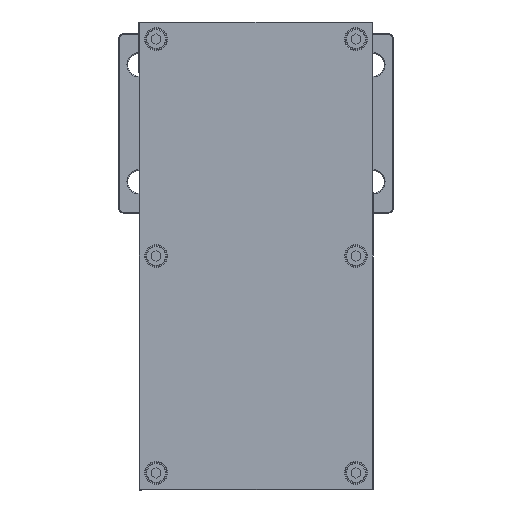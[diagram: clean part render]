
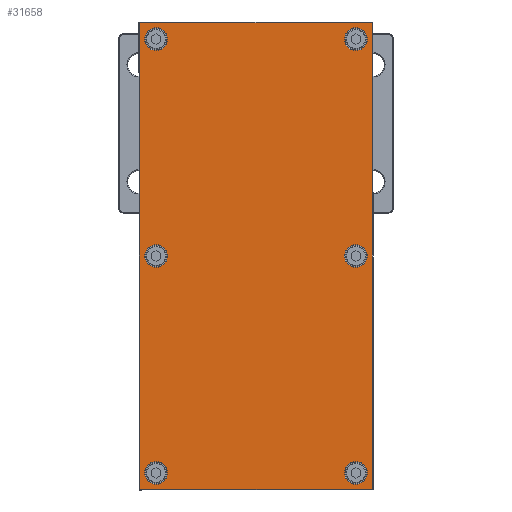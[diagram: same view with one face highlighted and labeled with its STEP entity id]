
A CAD part, front view. The second image highlights one B-rep face of the part: STEP entity #31658.
In plain terms, the highlighted planar face has unit normal (0, -1, 0).
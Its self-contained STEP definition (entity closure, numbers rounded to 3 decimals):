
#30217=CARTESIAN_POINT('',(149.,-9.,-74.));
#30218=DIRECTION('',(0.,-1.,0.));
#30219=DIRECTION('',(0.,0.,-1.));
#30220=AXIS2_PLACEMENT_3D('',#30217,#30218,#30219);
#30222=DIRECTION('',(1.,0.,0.));
#30223=VECTOR('',#30222,298.);
#30224=CARTESIAN_POINT('',(-149.,-9.,
-74.5));
#30225=LINE('',#30224,#30223);
#30226=CARTESIAN_POINT('',(-149.,-9.,-74.));
#30227=DIRECTION('',(0.,-1.,0.));
#30228=DIRECTION('',(-1.,0.,0.));
#30229=AXIS2_PLACEMENT_3D('',#30226,#30227,#30228);
#30231=DIRECTION('',(0.,0.,-1.));
#30232=VECTOR('',#30231,148.);
#30233=CARTESIAN_POINT('',(-149.5,-9.,74.));
#30234=LINE('',#30233,#30232);
#30235=CARTESIAN_POINT('',(-149.,-9.,74.));
#30236=DIRECTION('',(0.,-1.,0.));
#30237=DIRECTION('',(0.,0.,1.));
#30238=AXIS2_PLACEMENT_3D('',#30235,#30236,#30237);
#30240=DIRECTION('',(-1.,0.,0.));
#30241=VECTOR('',#30240,298.);
#30242=CARTESIAN_POINT('',(149.,-9.,
74.5));
#30243=LINE('',#30242,#30241);
#30244=CARTESIAN_POINT('',(149.,-9.,74.));
#30245=DIRECTION('',(0.,-1.,0.));
#30246=DIRECTION('',(1.,0.,0.));
#30247=AXIS2_PLACEMENT_3D('',#30244,#30245,#30246);
#30249=DIRECTION('',(0.,0.,1.));
#30250=VECTOR('',#30249,148.);
#30251=CARTESIAN_POINT('',(149.5,-9.,-74.));
#30252=LINE('',#30251,#30250);
#30253=CARTESIAN_POINT('',(-139.,-9.,-64.));
#30254=DIRECTION('',(0.,1.,0.));
#30255=DIRECTION('',(1.,0.,0.));
#30256=AXIS2_PLACEMENT_3D('',#30253,#30254,#30255);
#30258=CARTESIAN_POINT('',(-139.,-9.,-64.));
#30259=DIRECTION('',(0.,1.,0.));
#30260=DIRECTION('',(-1.,0.,0.));
#30261=AXIS2_PLACEMENT_3D('',#30258,#30259,#30260);
#30263=CARTESIAN_POINT('',(0.,-9.,-64.));
#30264=DIRECTION('',(0.,1.,0.));
#30265=DIRECTION('',(1.,0.,0.));
#30266=AXIS2_PLACEMENT_3D('',#30263,#30264,#30265);
#30268=CARTESIAN_POINT('',(0.,-9.,-64.));
#30269=DIRECTION('',(0.,1.,0.));
#30270=DIRECTION('',(-1.,0.,0.));
#30271=AXIS2_PLACEMENT_3D('',#30268,#30269,#30270);
#30273=CARTESIAN_POINT('',(139.,-9.,-64.));
#30274=DIRECTION('',(0.,1.,0.));
#30275=DIRECTION('',(1.,0.,0.));
#30276=AXIS2_PLACEMENT_3D('',#30273,#30274,#30275);
#30278=CARTESIAN_POINT('',(139.,-9.,-64.));
#30279=DIRECTION('',(0.,1.,0.));
#30280=DIRECTION('',(-1.,0.,0.));
#30281=AXIS2_PLACEMENT_3D('',#30278,#30279,#30280);
#30283=CARTESIAN_POINT('',(139.,-9.,64.));
#30284=DIRECTION('',(0.,1.,0.));
#30285=DIRECTION('',(1.,0.,0.));
#30286=AXIS2_PLACEMENT_3D('',#30283,#30284,#30285);
#30288=CARTESIAN_POINT('',(139.,-9.,64.));
#30289=DIRECTION('',(0.,1.,0.));
#30290=DIRECTION('',(-1.,0.,0.));
#30291=AXIS2_PLACEMENT_3D('',#30288,#30289,#30290);
#30293=CARTESIAN_POINT('',(0.,-9.,64.));
#30294=DIRECTION('',(0.,1.,0.));
#30295=DIRECTION('',(1.,0.,0.));
#30296=AXIS2_PLACEMENT_3D('',#30293,#30294,#30295);
#30298=CARTESIAN_POINT('',(0.,-9.,64.));
#30299=DIRECTION('',(0.,1.,0.));
#30300=DIRECTION('',(-1.,0.,0.));
#30301=AXIS2_PLACEMENT_3D('',#30298,#30299,#30300);
#30303=CARTESIAN_POINT('',(-139.,-9.,64.));
#30304=DIRECTION('',(0.,1.,0.));
#30305=DIRECTION('',(1.,0.,0.));
#30306=AXIS2_PLACEMENT_3D('',#30303,#30304,#30305);
#30308=CARTESIAN_POINT('',(-139.,-9.,64.));
#30309=DIRECTION('',(0.,1.,0.));
#30310=DIRECTION('',(-1.,0.,0.));
#30311=AXIS2_PLACEMENT_3D('',#30308,#30309,#30310);
#31387=CARTESIAN_POINT('',(149.,-9.,-74.5));
#31388=CARTESIAN_POINT('',(149.5,-9.,-74.));
#31389=VERTEX_POINT('',#31387);
#31390=VERTEX_POINT('',#31388);
#31395=CARTESIAN_POINT('',(149.5,-9.,
74.));
#31396=VERTEX_POINT('',#31395);
#31399=CARTESIAN_POINT('',(149.,-9.,74.5));
#31400=VERTEX_POINT('',#31399);
#31403=CARTESIAN_POINT('',(-149.,-9.,
74.5));
#31404=VERTEX_POINT('',#31403);
#31407=CARTESIAN_POINT('',(-149.5,-9.,74.));
#31408=VERTEX_POINT('',#31407);
#31411=CARTESIAN_POINT('',(-149.5,-9.,
-74.));
#31412=VERTEX_POINT('',#31411);
#31415=CARTESIAN_POINT('',(-149.,-9.,-74.5));
#31416=VERTEX_POINT('',#31415);
#31443=CARTESIAN_POINT('',(-131.7,-9.,-64.));
#31444=CARTESIAN_POINT('',(-146.3,-9.,-64.));
#31445=VERTEX_POINT('',#31443);
#31446=VERTEX_POINT('',#31444);
#31459=CARTESIAN_POINT('',(7.3,-9.,-64.));
#31460=CARTESIAN_POINT('',(-7.3,-9.,-64.));
#31461=VERTEX_POINT('',#31459);
#31462=VERTEX_POINT('',#31460);
#31483=CARTESIAN_POINT('',(146.3,-9.,-64.));
#31484=CARTESIAN_POINT('',(131.7,-9.,-64.));
#31485=VERTEX_POINT('',#31483);
#31486=VERTEX_POINT('',#31484);
#31499=CARTESIAN_POINT('',(146.3,-9.,64.));
#31500=CARTESIAN_POINT('',(131.7,-9.,64.));
#31501=VERTEX_POINT('',#31499);
#31502=VERTEX_POINT('',#31500);
#31507=CARTESIAN_POINT('',(7.3,-9.,64.));
#31508=CARTESIAN_POINT('',(-7.3,-9.,64.));
#31509=VERTEX_POINT('',#31507);
#31510=VERTEX_POINT('',#31508);
#31531=CARTESIAN_POINT('',(-131.7,-9.,64.));
#31532=CARTESIAN_POINT('',(-146.3,-9.,64.));
#31533=VERTEX_POINT('',#31531);
#31534=VERTEX_POINT('',#31532);
#31599=CARTESIAN_POINT('',(0.,-9.,0.));
#31600=DIRECTION('',(0.,1.,0.));
#31601=DIRECTION('',(1.,0.,0.));
#31602=AXIS2_PLACEMENT_3D('',#31599,#31600,#31601);
#31603=PLANE('',#31602);
#31605=ORIENTED_EDGE('',*,*,#31604,.F.);
#31607=ORIENTED_EDGE('',*,*,#31606,.F.);
#31609=ORIENTED_EDGE('',*,*,#31608,.F.);
#31611=ORIENTED_EDGE('',*,*,#31610,.F.);
#31613=ORIENTED_EDGE('',*,*,#31612,.F.);
#31615=ORIENTED_EDGE('',*,*,#31614,.F.);
#31617=ORIENTED_EDGE('',*,*,#31616,.F.);
#31619=ORIENTED_EDGE('',*,*,#31618,.F.);
#31620=EDGE_LOOP('',(#31605,#31607,#31609,#31611,#31613,#31615,#31617,#31619));
#31621=FACE_OUTER_BOUND('',#31620,.F.);
#31623=ORIENTED_EDGE('',*,*,#31622,.F.);
#31625=ORIENTED_EDGE('',*,*,#31624,.F.);
#31626=EDGE_LOOP('',(#31623,#31625));
#31627=FACE_BOUND('',#31626,.F.);
#31629=ORIENTED_EDGE('',*,*,#31628,.F.);
#31631=ORIENTED_EDGE('',*,*,#31630,.F.);
#31632=EDGE_LOOP('',(#31629,#31631));
#31633=FACE_BOUND('',#31632,.F.);
#31635=ORIENTED_EDGE('',*,*,#31634,.F.);
#31637=ORIENTED_EDGE('',*,*,#31636,.F.);
#31638=EDGE_LOOP('',(#31635,#31637));
#31639=FACE_BOUND('',#31638,.F.);
#31641=ORIENTED_EDGE('',*,*,#31640,.F.);
#31643=ORIENTED_EDGE('',*,*,#31642,.F.);
#31644=EDGE_LOOP('',(#31641,#31643));
#31645=FACE_BOUND('',#31644,.F.);
#31647=ORIENTED_EDGE('',*,*,#31646,.F.);
#31649=ORIENTED_EDGE('',*,*,#31648,.F.);
#31650=EDGE_LOOP('',(#31647,#31649));
#31651=FACE_BOUND('',#31650,.F.);
#31653=ORIENTED_EDGE('',*,*,#31652,.F.);
#31655=ORIENTED_EDGE('',*,*,#31654,.F.);
#31656=EDGE_LOOP('',(#31653,#31655));
#31657=FACE_BOUND('',#31656,.F.);
#31658=ADVANCED_FACE('',(#31621,#31627,#31633,#31639,#31645,#31651,#31657),
#31603,.F.);
#30221=CIRCLE('',#30220,0.5);
#30230=CIRCLE('',#30229,0.5);
#30239=CIRCLE('',#30238,0.5);
#30248=CIRCLE('',#30247,0.5);
#30257=CIRCLE('',#30256,7.3);
#30262=CIRCLE('',#30261,7.3);
#30267=CIRCLE('',#30266,7.3);
#30272=CIRCLE('',#30271,7.3);
#30277=CIRCLE('',#30276,7.3);
#30282=CIRCLE('',#30281,7.3);
#30287=CIRCLE('',#30286,7.3);
#30292=CIRCLE('',#30291,7.3);
#30297=CIRCLE('',#30296,7.3);
#30302=CIRCLE('',#30301,7.3);
#30307=CIRCLE('',#30306,7.3);
#30312=CIRCLE('',#30311,7.3);
#31604=EDGE_CURVE('',#31389,#31390,#30221,.T.);
#31606=EDGE_CURVE('',#31416,#31389,#30225,.T.);
#31608=EDGE_CURVE('',#31412,#31416,#30230,.T.);
#31610=EDGE_CURVE('',#31408,#31412,#30234,.T.);
#31612=EDGE_CURVE('',#31404,#31408,#30239,.T.);
#31614=EDGE_CURVE('',#31400,#31404,#30243,.T.);
#31616=EDGE_CURVE('',#31396,#31400,#30248,.T.);
#31618=EDGE_CURVE('',#31390,#31396,#30252,.T.);
#31622=EDGE_CURVE('',#31445,#31446,#30257,.T.);
#31624=EDGE_CURVE('',#31446,#31445,#30262,.T.);
#31628=EDGE_CURVE('',#31461,#31462,#30267,.T.);
#31630=EDGE_CURVE('',#31462,#31461,#30272,.T.);
#31634=EDGE_CURVE('',#31485,#31486,#30277,.T.);
#31636=EDGE_CURVE('',#31486,#31485,#30282,.T.);
#31640=EDGE_CURVE('',#31501,#31502,#30287,.T.);
#31642=EDGE_CURVE('',#31502,#31501,#30292,.T.);
#31646=EDGE_CURVE('',#31509,#31510,#30297,.T.);
#31648=EDGE_CURVE('',#31510,#31509,#30302,.T.);
#31652=EDGE_CURVE('',#31533,#31534,#30307,.T.);
#31654=EDGE_CURVE('',#31534,#31533,#30312,.T.);
